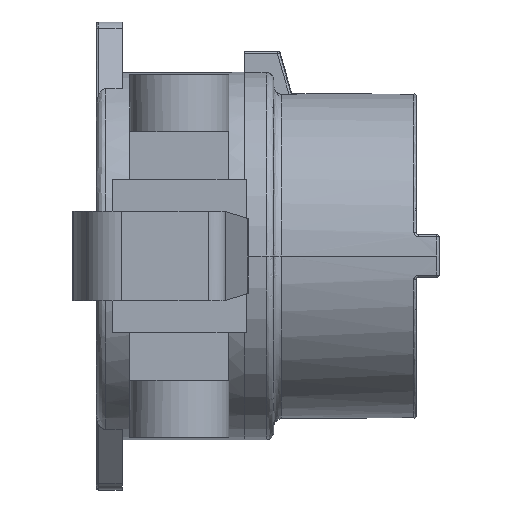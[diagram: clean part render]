
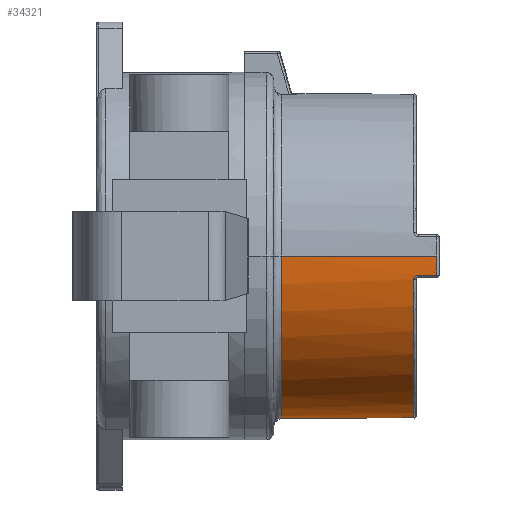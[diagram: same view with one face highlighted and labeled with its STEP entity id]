
A CAD part, front view. The second image highlights one B-rep face of the part: STEP entity #34321.
In plain terms, the highlighted cylindrical face has radius 53.975 mm (diameter 107.95 mm), a partial arc.
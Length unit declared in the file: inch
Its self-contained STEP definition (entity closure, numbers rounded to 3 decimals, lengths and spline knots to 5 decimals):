
#246 = LINE ( 'NONE', #28163, #50943 ) ;
#922 = CARTESIAN_POINT ( 'NONE',  ( -0.25136, 4.20947, 2.11008 ) ) ;
#1071 = ORIENTED_EDGE ( 'NONE', *, *, #8555, .T. ) ;
#1232 = CARTESIAN_POINT ( 'NONE',  ( 0., 1.9375, 0. ) ) ;
#2015 = DIRECTION ( 'NONE',  ( 0., -1., 0. ) ) ;
#2705 = CARTESIAN_POINT ( 'NONE',  ( -0.25135, 4.2175, -2.11008 ) ) ;
#4309 = VERTEX_POINT ( 'NONE', #25613 ) ;
#4411 = VERTEX_POINT ( 'NONE', #36076 ) ;
#4416 = VECTOR ( 'NONE', #59160, 39.37008 ) ;
#7190 = CARTESIAN_POINT ( 'NONE',  ( -0.25135, 4.4575, 2.11008 ) ) ;
#7323 = CARTESIAN_POINT ( 'NONE',  ( 0., 1.9375, 2.125 ) ) ;
#8283 = B_SPLINE_CURVE_WITH_KNOTS ( 'NONE', 3,
 ( #10860, #922, #40451, #11084, #45411, #15997, #50305, #20949, #55289, #25878 ),
 .UNSPECIFIED., .F., .F.,
 ( 4, 2, 2, 2, 4 ),
 ( 0., 0.25, 0.5, 0.75, 1. ),
 .UNSPECIFIED. ) ;
#8454 = EDGE_CURVE ( 'NONE', #16007, #4411, #42199, .T. ) ;
#8555 = EDGE_CURVE ( 'NONE', #15142, #4309, #15312, .T. ) ;
#9047 = VECTOR ( 'NONE', #35711, 39.37008 ) ;
#9355 = CARTESIAN_POINT ( 'NONE',  ( -0.31176, 4.1575, -2.10201 ) ) ;
#9461 = VERTEX_POINT ( 'NONE', #7190 ) ;
#9774 = DIRECTION ( 'NONE',  ( 0., 1., 0. ) ) ;
#10507 = VERTEX_POINT ( 'NONE', #9355 ) ;
#10860 = CARTESIAN_POINT ( 'NONE',  ( -0.25135, 4.2175, 2.11008 ) ) ;
#11084 = CARTESIAN_POINT ( 'NONE',  ( -0.25912, 4.18703, 2.10915 ) ) ;
#12418 = CARTESIAN_POINT ( 'NONE',  ( -0.31176, 4.1575, -2.10201 ) ) ;
#12861 = EDGE_CURVE ( 'NONE', #13294, #4411, #15172, .T. ) ;
#12919 = DIRECTION ( 'NONE',  ( 0., -1., 0. ) ) ;
#13294 = VERTEX_POINT ( 'NONE', #31487 ) ;
#13542 = DIRECTION ( 'NONE',  ( 0., -1., 0. ) ) ;
#14492 = CARTESIAN_POINT ( 'NONE',  ( -0.25135, 1.9375, -2.11008 ) ) ;
#14691 = ORIENTED_EDGE ( 'NONE', *, *, #40743, .T. ) ;
#15142 = VERTEX_POINT ( 'NONE', #35534 ) ;
#15172 = CIRCLE ( 'NONE', #30821, 2.125 ) ;
#15312 = CIRCLE ( 'NONE', #56360, 2.125 ) ;
#15892 = DIRECTION ( 'NONE',  ( 0., 0., -1. ) ) ;
#15997 = CARTESIAN_POINT ( 'NONE',  ( -0.27488, 4.16934, 2.10715 ) ) ;
#16007 = VERTEX_POINT ( 'NONE', #25556 ) ;
#16093 = VECTOR ( 'NONE', #41672, 39.37008 ) ;
#16358 = ORIENTED_EDGE ( 'NONE', *, *, #25181, .T. ) ;
#16618 = ORIENTED_EDGE ( 'NONE', *, *, #45030, .T. ) ;
#17339 = CARTESIAN_POINT ( 'NONE',  ( -0.2962, 4.15899, -2.10427 ) ) ;
#19164 = DIRECTION ( 'NONE',  ( 0., -1., 0. ) ) ;
#19305 = CARTESIAN_POINT ( 'NONE',  ( -0.25135, 4.2175, 2.11008 ) ) ;
#19679 = FACE_OUTER_BOUND ( 'NONE', #45184, .T. ) ;
#20285 = EDGE_CURVE ( 'NONE', #16007, #9461, #41156, .T. ) ;
#20949 = CARTESIAN_POINT ( 'NONE',  ( -0.29614, 4.15901, 2.10428 ) ) ;
#22090 = LINE ( 'NONE', #55266, #9047 ) ;
#22292 = CARTESIAN_POINT ( 'NONE',  ( -0.27495, 4.16928, -2.10715 ) ) ;
#24078 = CIRCLE ( 'NONE', #27540, 2.125 ) ;
#24681 = AXIS2_PLACEMENT_3D ( 'NONE', #48548, #19164, #53495 ) ;
#25181 = EDGE_CURVE ( 'NONE', #10507, #40125, #49409, .T. ) ;
#25556 = CARTESIAN_POINT ( 'NONE',  ( 0., 4.4575, 2.125 ) ) ;
#25613 = CARTESIAN_POINT ( 'NONE',  ( 0., 4.4575, -2.125 ) ) ;
#25878 = CARTESIAN_POINT ( 'NONE',  ( -0.31176, 4.1575, 2.10201 ) ) ;
#27233 = CARTESIAN_POINT ( 'NONE',  ( -0.25916, 4.18694, -2.10914 ) ) ;
#27540 = AXIS2_PLACEMENT_3D ( 'NONE', #31476, #2015, #36389 ) ;
#28163 = CARTESIAN_POINT ( 'NONE',  ( 0., 1.9375, -2.125 ) ) ;
#30302 = ORIENTED_EDGE ( 'NONE', *, *, #12861, .T. ) ;
#30701 = DIRECTION ( 'NONE',  ( 0., -1., 0. ) ) ;
#30821 = AXIS2_PLACEMENT_3D ( 'NONE', #39149, #9774, #44119 ) ;
#31476 = CARTESIAN_POINT ( 'NONE',  ( 0., 4.1575, 0. ) ) ;
#31487 = CARTESIAN_POINT ( 'NONE',  ( 0., 2.425, -2.125 ) ) ;
#32144 = CARTESIAN_POINT ( 'NONE',  ( -0.25136, 4.20945, -2.11008 ) ) ;
#33422 = ORIENTED_EDGE ( 'NONE', *, *, #45114, .T. ) ;
#33699 = ORIENTED_EDGE ( 'NONE', *, *, #46216, .T. ) ;
#34321 = ADVANCED_FACE ( 'NONE', ( #19679 ), #54252, .T. ) ;
#35534 = CARTESIAN_POINT ( 'NONE',  ( -0.25135, 4.4575, -2.11008 ) ) ;
#35711 = DIRECTION ( 'NONE',  ( 0., -1., 0. ) ) ;
#36076 = CARTESIAN_POINT ( 'NONE',  ( 0., 2.425, 2.125 ) ) ;
#36389 = DIRECTION ( 'NONE',  ( 0., 0., -1. ) ) ;
#39149 = CARTESIAN_POINT ( 'NONE',  ( 0., 2.425, 0. ) ) ;
#39940 = VERTEX_POINT ( 'NONE', #19305 ) ;
#40125 = VERTEX_POINT ( 'NONE', #60294 ) ;
#40451 = CARTESIAN_POINT ( 'NONE',  ( -0.25293, 4.20174, 2.1099 ) ) ;
#40743 = EDGE_CURVE ( 'NONE', #39940, #47122, #8283, .T. ) ;
#41156 = CIRCLE ( 'NONE', #24681, 2.125 ) ;
#41672 = DIRECTION ( 'NONE',  ( 0., -1., 0. ) ) ;
#42199 = LINE ( 'NONE', #7323, #16093 ) ;
#42315 = CARTESIAN_POINT ( 'NONE',  ( 0., 4.4575, 0. ) ) ;
#44119 = DIRECTION ( 'NONE',  ( 0., 0., -1. ) ) ;
#45030 = EDGE_CURVE ( 'NONE', #40125, #15142, #55173, .T. ) ;
#45114 = EDGE_CURVE ( 'NONE', #9461, #39940, #22090, .T. ) ;
#45184 = EDGE_LOOP ( 'NONE', ( #55716, #58249, #33422, #14691, #33699, #16358, #16618, #1071, #53553, #30302 ) ) ;
#45411 = CARTESIAN_POINT ( 'NONE',  ( -0.26355, 4.1805, 2.1086 ) ) ;
#46216 = EDGE_CURVE ( 'NONE', #47122, #10507, #24078, .T. ) ;
#46749 = CARTESIAN_POINT ( 'NONE',  ( -0.30382, 4.1575, -2.10318 ) ) ;
#47122 = VERTEX_POINT ( 'NONE', #54367 ) ;
#47254 = DIRECTION ( 'NONE',  ( 0., 0., -1. ) ) ;
#48548 = CARTESIAN_POINT ( 'NONE',  ( 0., 4.4575, 0. ) ) ;
#49409 = B_SPLINE_CURVE_WITH_KNOTS ( 'NONE', 3,
 ( #12418, #46749, #17339, #51661, #22292, #56610, #27233, #61602, #32144, #2705 ),
 .UNSPECIFIED., .F., .F.,
 ( 4, 2, 2, 2, 4 ),
 ( 0., 0.25, 0.5, 0.75, 1. ),
 .UNSPECIFIED. ) ;
#50069 = AXIS2_PLACEMENT_3D ( 'NONE', #1232, #30701, #15892 ) ;
#50305 = CARTESIAN_POINT ( 'NONE',  ( -0.28141, 4.16503, 2.1063 ) ) ;
#50943 = VECTOR ( 'NONE', #13542, 39.37008 ) ;
#51661 = CARTESIAN_POINT ( 'NONE',  ( -0.28145, 4.16501, -2.10629 ) ) ;
#52488 = EDGE_CURVE ( 'NONE', #4309, #13294, #246, .T. ) ;
#53495 = DIRECTION ( 'NONE',  ( 0., 0., -1. ) ) ;
#53553 = ORIENTED_EDGE ( 'NONE', *, *, #52488, .T. ) ;
#54252 = CYLINDRICAL_SURFACE ( 'NONE', #50069, 2.125 ) ;
#54367 = CARTESIAN_POINT ( 'NONE',  ( -0.31176, 4.1575, 2.10201 ) ) ;
#55173 = LINE ( 'NONE', #14492, #4416 ) ;
#55266 = CARTESIAN_POINT ( 'NONE',  ( -0.25135, 1.9375, 2.11008 ) ) ;
#55289 = CARTESIAN_POINT ( 'NONE',  ( -0.3038, 4.1575, 2.10319 ) ) ;
#55716 = ORIENTED_EDGE ( 'NONE', *, *, #8454, .F. ) ;
#56360 = AXIS2_PLACEMENT_3D ( 'NONE', #42315, #12919, #47254 ) ;
#56610 = CARTESIAN_POINT ( 'NONE',  ( -0.26355, 4.1805, -2.1086 ) ) ;
#58249 = ORIENTED_EDGE ( 'NONE', *, *, #20285, .T. ) ;
#59160 = DIRECTION ( 'NONE',  ( 0., 1., 0. ) ) ;
#60294 = CARTESIAN_POINT ( 'NONE',  ( -0.25135, 4.2175, -2.11008 ) ) ;
#61602 = CARTESIAN_POINT ( 'NONE',  ( -0.25292, 4.20173, -2.1099 ) ) ;
